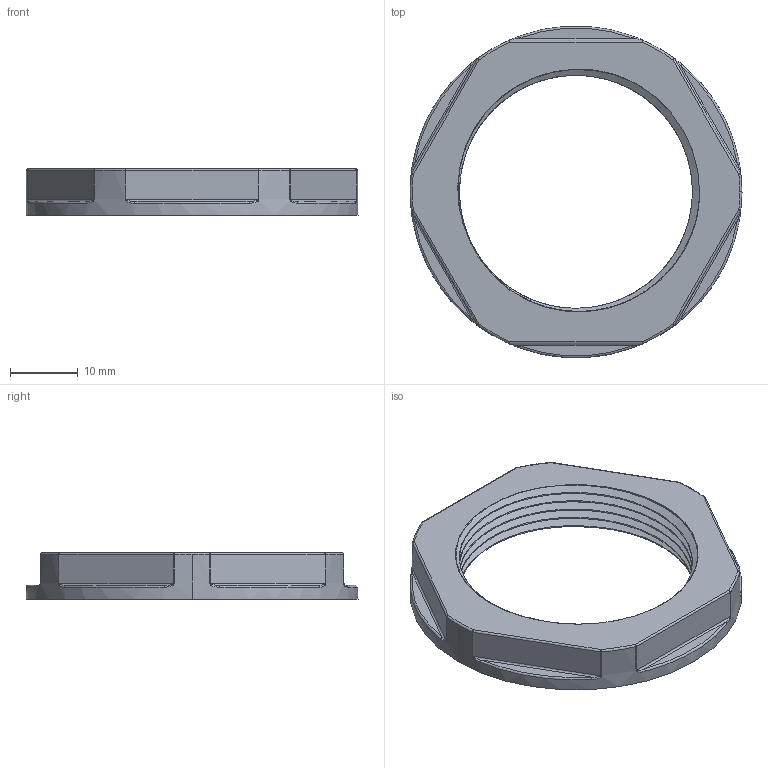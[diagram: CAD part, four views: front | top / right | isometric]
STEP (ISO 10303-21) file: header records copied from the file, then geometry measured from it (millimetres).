
FILE_DESCRIPTION (( 'STEP AP203' ), '1' );
FILE_NAME ('plc-pg-29-00.00.003 Ãàéêà ïðèæèìíàÿ (PG29-Ì36) #clamping nut (PG29-M36)#.STEP', '2021-06-01T13:00:12', ( '' ), ( '' ), 'SwSTEP 2.0', 'SolidWorks 2021', '' );
FILE_SCHEMA (( 'CONFIG_CONTROL_DESIGN' ));
Length unit declared in the file: millimetre
Products named in the file (1): plc-pg-29-00.00.003 Ãàéêà ïðèæèìíàÿ (PG29-Ì36) #clamping nut (PG29-M36)#
Bounding box: 49.11 x 49.11 x 6.9 mm (x, y, z)
Volume: 5410.5 mm3; surface area: 4159.8 mm2
Topology: 1 solids, 1 shells, 97 faces, 218 edges, 123 vertices
Faces by surface type: bspline 31, cylinder 23, plane 14, sphere 14, torus 13, cone 2
Entity records: 7434 total; most frequent: CARTESIAN_POINT 5443, ORIENTED_EDGE 436, DIRECTION 370, EDGE_CURVE 218, AXIS2_PLACEMENT_3D 167, VERTEX_POINT 123, CIRCLE 100, EDGE_LOOP 99
